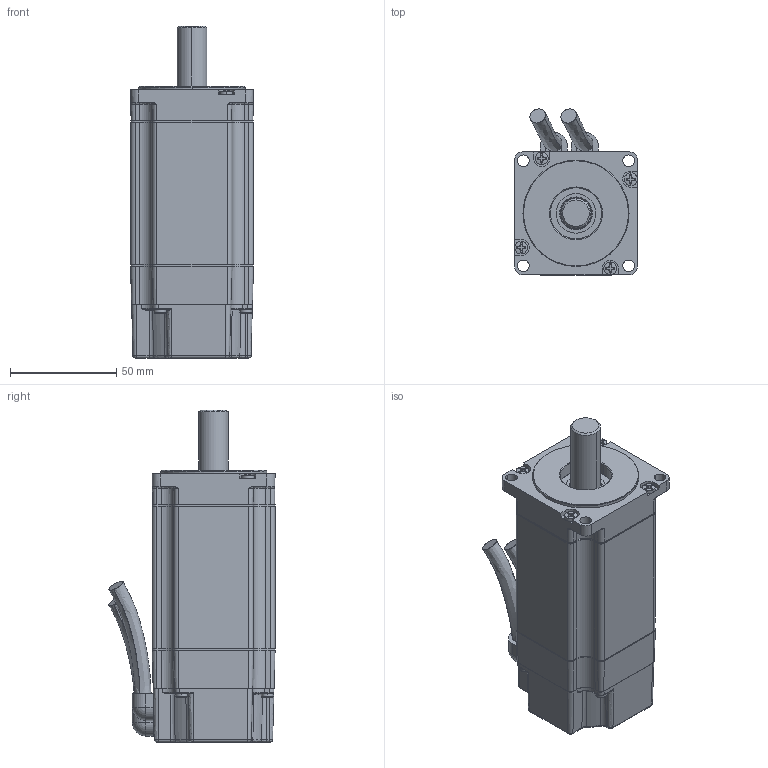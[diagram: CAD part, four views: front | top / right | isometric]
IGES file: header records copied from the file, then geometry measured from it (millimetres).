
Start section:  PTC IGES file: vlm22g.igs
Global section: file name: vlm22g.igs; native system: Pro/ENGINEER by Parametric Technology Corporation; preprocessor: 2006510; author: Ray.Dobbins; organization: Unknown; date: 20110726.093333; units: inch
Bounding box: 57.91 x 78.26 x 156.37 mm (x, y, z)
Surface area: 132374.9 mm2 (no closed solid volume)
Topology: 0 solids, 0 shells, 1817 faces, 9621 edges, 9611 vertices
Faces by surface type: revolution 1056, bspline 761
